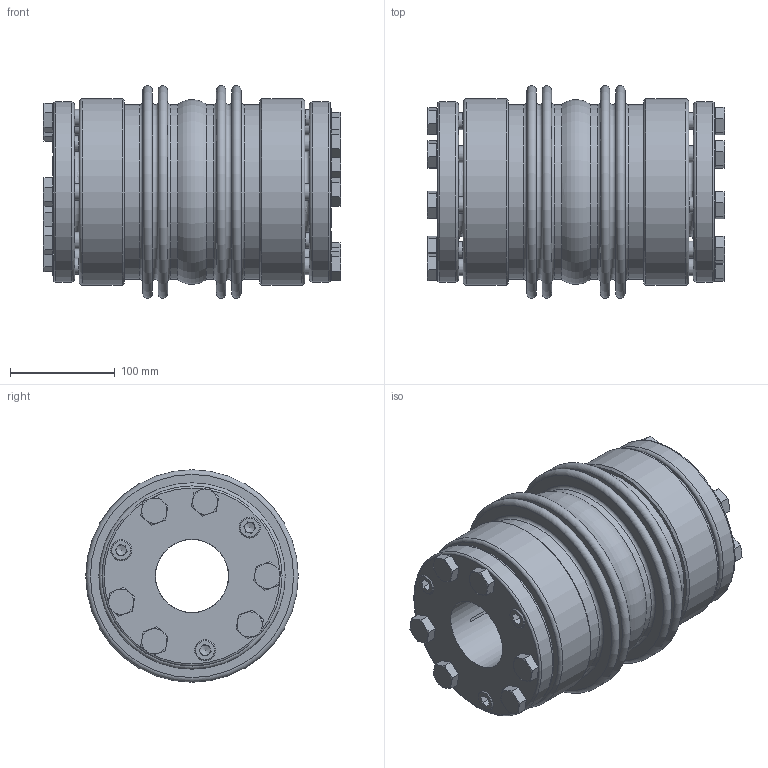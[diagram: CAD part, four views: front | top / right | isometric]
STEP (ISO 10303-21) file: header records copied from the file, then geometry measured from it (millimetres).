
FILE_DESCRIPTION(/* description */ ('Unknown','CAx-IF Rec.Pracs.---Representation and Presentation of Product Manufacturing Information (PMI)---4.0---2014-10-13','CAx-IF Rec.Pracs.---3D Tessellated Geometry---0.4---2014-09-14','2;1'),/* implementation_level */ '2;1');
FILE_NAME(/* name */ 'MB-03124766',/* time_stamp */ '2023-12-13T08:18:32+01:00',/* author */ ('Unknown'),/* organization */ ('Unknown'),/* preprocessor_version */ 'ST-DEVELOPER v18.102',/* originating_system */ 'Solid Edge',/* authorisation */ 'Unknown');
FILE_SCHEMA (('AP242_MANAGED_MODEL_BASED_3D_ENGINEERING_MIM_LF { 1 0 10303 442 1 1 4 }'));
Length unit declared in the file: millimetre
Products named in the file (1): MB-03124766
Bounding box: 284.4 x 203 x 203 mm (x, y, z)
Volume: 2962243.3 mm3; surface area: 607136.8 mm2
Topology: 1 solids, 13 shells, 590 faces, 1295 edges, 833 vertices
Faces by surface type: plane 270, cylinder 182, cone 106, torus 32
Full cylindrical faces by diameter (mm): 6.8 x50, 13.835 x12, 15 x6, 16 x12, 17 x12, 18.5 x6, 22.5 x12, 69.85 x2, 152 x2, 164 x2, 167.2 x4, 172 x2, 178 x2
Entity records: 20503 total; most frequent: CARTESIAN_POINT 4822, DIRECTION 2272, ORIENTED_EDGE 2040, EDGE_CURVE 1020, AXIS2_PLACEMENT_3D 952, FACE_BOUND 942, EDGE_LOOP 924, VERTEX_POINT 766
